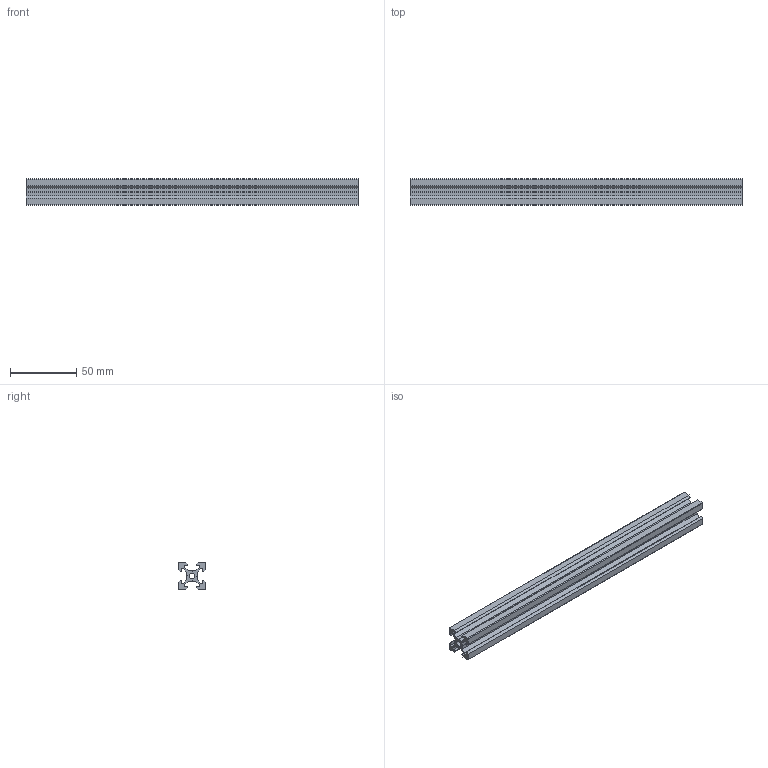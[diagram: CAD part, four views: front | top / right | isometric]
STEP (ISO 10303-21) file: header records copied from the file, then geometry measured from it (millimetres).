
FILE_DESCRIPTION(/* description */ (''),/* implementation_level */ '2;1');
FILE_NAME(/* name */ 'C:/Users/Ulises/Desktop/T1/mecanica_cad/V-Slot_20x20x250.step',/* time_stamp */ '2020-10-16T01:28:48-03:00',/* author */ (''),/* organization */ (''),/* preprocessor_version */ 'ST-DEVELOPER v18.1',/* originating_system */ 'Autodesk Translation Framework v9.3.0.1241',/* authorisation */ '');
FILE_SCHEMA (('AUTOMOTIVE_DESIGN { 1 0 10303 214 3 1 1 }'));
Length unit declared in the file: millimetre
Products named in the file (1): V-Slot_20x20x250
Bounding box: 250 x 20 x 20 mm (x, y, z)
Volume: 42850.7 mm3; surface area: 40479.1 mm2
Topology: 1 solids, 1 shells, 71 faces, 207 edges, 138 vertices
Faces by surface type: plane 66, cylinder 5
Full cylindrical faces by diameter (mm): 4.2 x1
Entity records: 2355 total; most frequent: CARTESIAN_POINT 417, ORIENTED_EDGE 414, DIRECTION 361, EDGE_CURVE 207, LINE 197, VECTOR 197, VERTEX_POINT 138, AXIS2_PLACEMENT_3D 82
